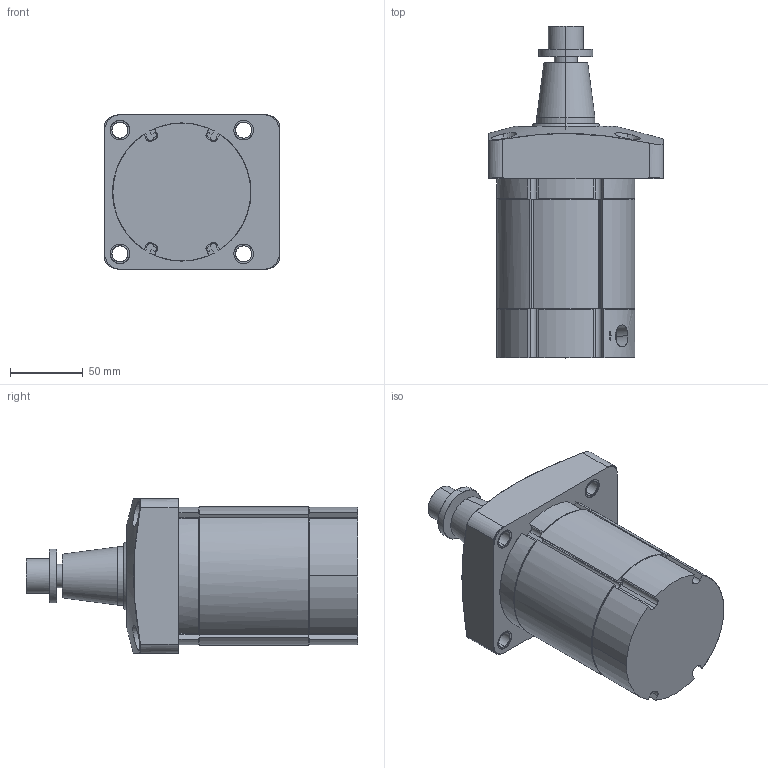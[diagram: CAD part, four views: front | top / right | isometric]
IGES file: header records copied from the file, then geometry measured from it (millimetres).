
Start section: Comment
Global section: file name: jsmh63-29.igs; native system:  By Spatial Corp.; preprocessor: XPlus GENERIC/IGES 3.0; author: Author; organization: Title; date: 20080526.130752; units: millimetre
Bounding box: 120 x 228 x 106 mm (x, y, z)
Surface area: 154317.5 mm2 (no closed solid volume)
Topology: 0 solids, 0 shells, 266 faces, 1346 edges, 1340 vertices
Faces by surface type: bspline 266
